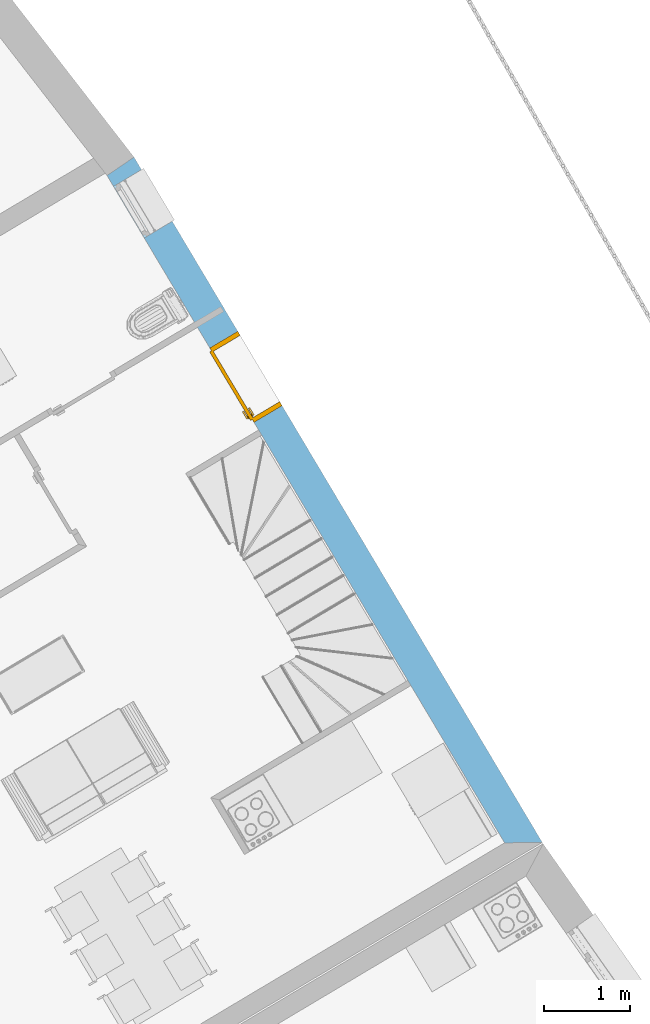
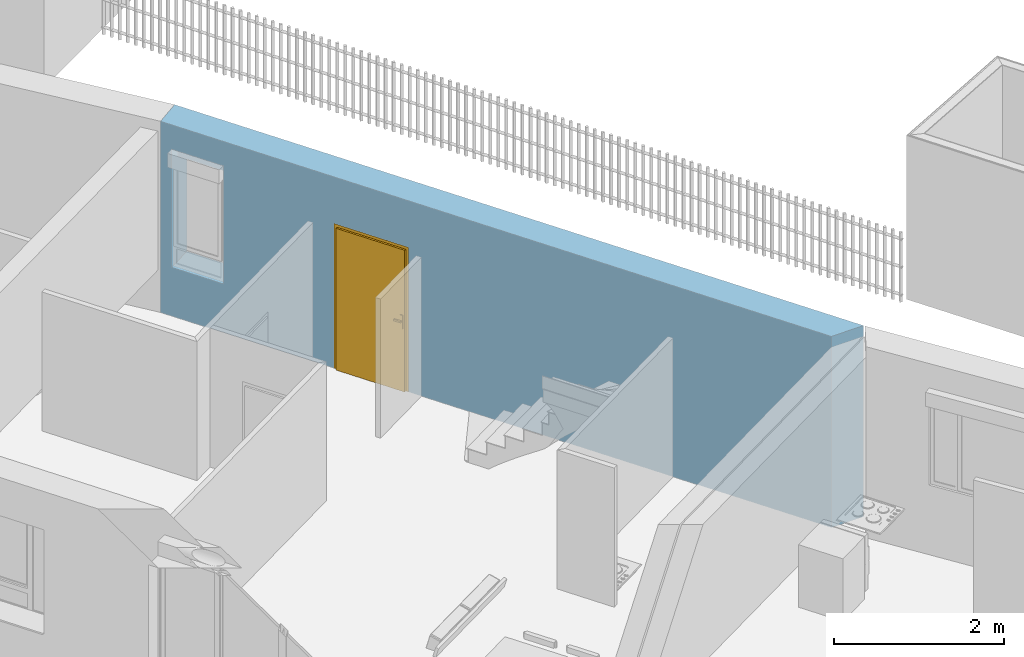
# One storey, part 48 of 195: 1 door, 2 openings, plus 1 element that does not belong to this part.
"""IFC2X3 building model written with IfcOpenShell, lengths in metres."""

from ifc_helpers import new_model, entity, si_unit, converted_unit, derived_unit, money_unit, direction, frame, origin_with_axes, origin_2d_with_axis, place, context, subcontext, project, spatial, polyline, rectangle, outline, extrude, faceted_brep, source, transform, mapped, material, layer, layer_set, layer_usage, type_object, element, fill, save


model = new_model("IFC2X3")

# Units and contexts
model_context = context("Model", 3, precision=1e-05, world=origin_with_axes(), true_north=direction((0.0, 1.0)))
body_context = subcontext(model_context, "Body", "Model", "MODEL_VIEW")
ifc_project = project(units=[si_unit("LENGTHUNIT", "METRE"), si_unit("AREAUNIT", "SQUARE_METRE"), si_unit("VOLUMEUNIT", "CUBIC_METRE"), converted_unit("PLANEANGLEUNIT", "DEGREE", entity("IfcPlaneAngleMeasure", 0.0174532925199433), si_unit("PLANEANGLEUNIT", "RADIAN"), dimensions=[0, 0, 0, 0, 0, 0, 0]), money_unit("CHF"), converted_unit("TIMEUNIT", "Year", entity("IfcTimeMeasure", 31557600.0), si_unit("TIMEUNIT", "SECOND"), dimensions=[0, 0, 1, 0, 0, 0, 0]), si_unit("MASSUNIT", "GRAM", prefix="KILO"), si_unit("THERMODYNAMICTEMPERATUREUNIT", "DEGREE_CELSIUS"), si_unit("LUMINOUSINTENSITYUNIT", "LUMEN"), si_unit("ENERGYUNIT", "JOULE", prefix="MEGA"), derived_unit("THERMALCONDUCTANCEUNIT", [(si_unit("POWERUNIT", "WATT"), 1), (si_unit("LENGTHUNIT", "METRE"), -1), (si_unit("THERMODYNAMICTEMPERATUREUNIT", "KELVIN"), -1)]), derived_unit("SPECIFICHEATCAPACITYUNIT", [(si_unit("ENERGYUNIT", "JOULE"), 1), (si_unit("MASSUNIT", "GRAM", prefix="KILO"), -1), (si_unit("THERMODYNAMICTEMPERATUREUNIT", "KELVIN"), -1)]), derived_unit("MASSDENSITYUNIT", [(si_unit("MASSUNIT", "GRAM", prefix="KILO"), 1), (si_unit("VOLUMEUNIT", "CUBIC_METRE"), -1)])], contexts=[model_context])

# Site, building, storey
site_placement = place(None, origin_with_axes())
site = spatial("IfcSite", under=ifc_project, at=site_placement, Name="Site", CompositionType="ELEMENT")
building_placement = place(site_placement, origin_with_axes())
building = spatial("IfcBuilding", under=site, at=building_placement, Name="Bâtiment", CompositionType="ELEMENT")
storey_placement = place(building_placement, origin_with_axes())
storey = spatial("IfcBuildingStorey", under=building, at=storey_placement, Name="rdc", CompositionType="ELEMENT", Elevation=0.0)

# Wall, openings, door
ifc_material_1 = material(Name="Parpaing 312445824")
ifc_layer_1 = layer(ifc_material_1, 0.22, ventilated="UNKNOWN")
ifc_material_2 = material(Name="Isolant styromousse 301821074")
ifc_layer_2 = layer(ifc_material_2, 0.16, ventilated="UNKNOWN")
ifc_layer_set = layer_set([ifc_layer_1, ifc_layer_2], Name="isol int 22+16 0836643197")
ifc_layer_usage = layer_usage(ifc_layer_set, "AXIS2", "POSITIVE", 0.0)
wall_type = type_object("IfcWallType", Name="isol int 22+16 0836643197 380", PredefinedType="NOTDEFINED")
wall_placement = place(storey_placement, frame((9549.820148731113, -1051.269473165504, 57.7), z_axis=(0.0, 0.0, 1.0), x_axis=(-0.5118298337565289, 0.8590868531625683, 0.0)))
wall = element("IfcWallStandardCase", 1, at=wall_placement, inside=storey, type_object=wall_type, material=ifc_layer_usage, Name="Mur-112", context=body_context, shape_type="SweptSolid", body=[
    extrude(outline(polyline([(0.0, 0.0), (9.30089494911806, 0.0), (9.277642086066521, 0.3799999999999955), (0.2200000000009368, 0.3799999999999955), (0.0, 0.0)])), origin_with_axes(), (0.0, 0.0, 1.0), 2.75),
])
opening_1_placement = place(wall_placement, frame((8.780433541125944, 0.0, 0.7000000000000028), z_axis=(0.0, 0.0, 1.0), x_axis=(1.0, 0.0, 0.0)))
element("IfcOpeningElement", 2, at=opening_1_placement, cuts=wall, Name="Fen-050", context=body_context, shape_type="Brep", body=[
    faceted_brep([(0.3500000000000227, 0.2200000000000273, 1.5), (-0.3500000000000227, 0.2200000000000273, 1.5), (-0.3499999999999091, -4.090661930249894, 1.5), (0.3500000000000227, -4.090661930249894, 1.5), (0.3500000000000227, 0.2200000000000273, 1.700000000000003), (-0.3500000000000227, 0.2200000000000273, 1.700000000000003), (-0.3500000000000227, 0.2999999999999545, 1.5), (-0.3500000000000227, 0.2999999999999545, 0.0), (-0.3499999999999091, -4.090661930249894, 0.0), (0.3500000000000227, -4.090661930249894, 0.0), (0.3500000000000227, 0.3000000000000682, 1.5), (0.3500000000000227, 0.3000000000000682, 0.0), (0.3500000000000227, 0.4800000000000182, 1.5), (0.3500000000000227, 0.4800000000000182, 1.700000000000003), (-0.3500000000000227, 0.4799999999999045, 1.700000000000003), (-0.3500000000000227, 0.4799999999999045, 1.5), (-0.3499999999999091, 4.470661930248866, 1.5), (-0.3499999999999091, 4.470661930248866, 0.0), (0.3500000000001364, 4.47066193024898, 0.0), (0.3500000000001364, 4.47066193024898, 1.5)], [[[0, 1, 2, 3]], [[1, 0, 4, 5]], [[1, 6, 7, 8, 2]], [[2, 8, 9, 3]], [[10, 0, 3, 9, 11]], [[0, 10, 12, 13, 4]], [[4, 13, 14, 5]], [[6, 1, 5, 14, 15]], [[6, 15, 16, 17, 7]], [[7, 11, 9, 8]], [[12, 10, 11, 18, 19]], [[12, 15, 14, 13]], [[15, 12, 19, 16]], [[19, 18, 17, 16]], [[11, 7, 17, 18]]]),
])
opening_2_placement = place(wall_placement, frame((6.432047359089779, 0.0, 0.0), z_axis=(0.0, 0.0, 1.0), x_axis=(1.0, 0.0, 0.0)))
opening_2 = element("IfcOpeningElement", 3, at=opening_2_placement, cuts=wall, Name="Por-300", context=body_context, shape_type="SweptSolid", body=[
    extrude(rectangle(XDim=1.01000001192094, YDim=2.079999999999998, at=origin_2d_with_axis()), frame((5.960373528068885e-09, -0.3799999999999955, 1.039999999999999), z_axis=(0.0, 1.0, 0.0), x_axis=(1.0, 0.0, 0.0)), (0.0, 0.0, 1.0), 0.76),
])
door_style = type_object("IfcDoorStyle", Name="Porte_1v", ConstructionType="NOTDEFINED", OperationType="NOTDEFINED", ParameterTakesPrecedence=False, Sizeable=False)
shared_shape = source(origin_with_axes(), body_context, "Body", "Brep", [
    faceted_brep([(0.5049999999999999, 0.0, 0.0), (0.465, 0.0, 0.0), (0.4649999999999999, 0.0, 2.04), (-0.4649999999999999, 0.0, 2.04), (-0.465, 0.0, 0.0), (-0.5049999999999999, 0.0, 0.0), (-0.5049999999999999, 0.0, 2.08), (0.5049999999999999, 0.0, 2.08), (0.5049999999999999, -0.38, 0.0), (0.45, -0.3799999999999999, 0.0), (0.45, -0.01500000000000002, 0.0), (0.465, -0.01500000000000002, 0.0), (0.4649999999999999, -0.01500000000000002, 2.04), (-0.4649999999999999, -0.01499999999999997, 2.04), (-0.465, -0.01499999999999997, 0.0), (-0.45, -0.01499999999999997, 0.0), (-0.45, -0.3799999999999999, 0.0), (-0.5049999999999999, -0.3799999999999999, 0.0), (-0.5049999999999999, -0.3799999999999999, 2.08), (0.5049999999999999, -0.38, 2.08), (-0.45, -0.3799999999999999, 2.025), (0.45, -0.3799999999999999, 2.025), (0.45, -0.01500000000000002, 2.025), (-0.45, -0.01499999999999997, 2.025)], [[[0, 1, 2, 3, 4, 5, 6, 7]], [[0, 8, 9, 10, 11, 1]], [[1, 11, 12, 2]], [[2, 12, 13, 3]], [[3, 13, 14, 4]], [[5, 4, 14, 15, 16, 17]], [[18, 6, 5, 17]], [[19, 7, 6, 18]], [[8, 0, 7, 19]], [[9, 8, 19, 18, 17, 16, 20, 21]], [[10, 9, 21, 22]], [[11, 10, 22, 23, 15, 14, 13, 12]], [[23, 20, 16, 15]], [[22, 21, 20, 23]]]),
    faceted_brep([(-0.4, -0.01499999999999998, 0.9), (-0.4399999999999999, -0.01499999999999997, 0.9), (-0.4399999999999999, -0.01499999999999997, 1.1), (-0.4, -0.01499999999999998, 1.1), (-0.4, -0.02499999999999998, 0.9), (-0.4399999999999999, -0.02499999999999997, 0.9), (-0.4399999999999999, -0.02499999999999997, 1.1), (-0.4, -0.02499999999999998, 1.1)], [[[0, 1, 2, 3]], [[1, 0, 4, 5]], [[2, 1, 5, 6]], [[3, 2, 6, 7]], [[0, 3, 7, 4]], [[5, 4, 7, 6]]]),
    faceted_brep([(-0.3299999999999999, -0.02499999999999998, 1.0), (-0.4299999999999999, -0.02499999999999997, 1.0), (-0.4299999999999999, -0.02499999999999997, 1.02), (-0.3299999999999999, -0.02499999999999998, 1.02), (-0.3299999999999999, -0.04499999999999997, 1.0), (-0.4299999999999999, -0.04499999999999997, 1.0), (-0.4299999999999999, -0.04499999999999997, 1.02), (-0.3299999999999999, -0.04499999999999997, 1.02)], [[[0, 1, 2, 3]], [[1, 0, 4, 5]], [[2, 1, 5, 6]], [[3, 2, 6, 7]], [[0, 3, 7, 4]], [[5, 4, 7, 6]]]),
    faceted_brep([(-0.4, 0.03500000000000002, 0.9), (-0.4399999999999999, 0.03500000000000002, 0.9), (-0.4399999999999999, 0.03500000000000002, 1.1), (-0.4, 0.03500000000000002, 1.1), (-0.4, 0.02500000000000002, 0.9), (-0.4399999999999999, 0.02500000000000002, 0.9), (-0.4399999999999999, 0.02500000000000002, 1.1), (-0.4, 0.02500000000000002, 1.1)], [[[0, 1, 2, 3]], [[1, 0, 4, 5]], [[2, 1, 5, 6]], [[3, 2, 6, 7]], [[0, 3, 7, 4]], [[5, 4, 7, 6]]]),
    faceted_brep([(-0.3299999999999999, 0.05500000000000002, 1.0), (-0.4299999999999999, 0.05500000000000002, 1.0), (-0.4299999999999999, 0.05500000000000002, 1.02), (-0.3299999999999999, 0.05500000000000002, 1.02), (-0.3299999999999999, 0.03500000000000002, 1.0), (-0.4299999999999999, 0.03500000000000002, 1.0), (-0.4299999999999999, 0.03500000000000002, 1.02), (-0.3299999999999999, 0.03500000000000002, 1.02)], [[[0, 1, 2, 3]], [[1, 0, 4, 5]], [[2, 1, 5, 6]], [[3, 2, 6, 7]], [[0, 3, 7, 4]], [[5, 4, 7, 6]]]),
    faceted_brep([(-0.465, 0.02500000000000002, 0.0), (0.465, 0.02499999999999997, 0.0), (0.465, -0.01500000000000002, 0.0), (-0.465, -0.01499999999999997, 0.0), (-0.465, 0.02500000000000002, 2.04), (0.465, 0.02499999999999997, 2.04), (0.465, -0.01500000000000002, 2.04), (-0.465, -0.01499999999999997, 2.04)], [[[0, 1, 2, 3]], [[0, 4, 5, 1]], [[1, 5, 6, 2]], [[3, 2, 6, 7]], [[4, 0, 3, 7]], [[5, 4, 7, 6]]]),
])
door_placement = place(opening_2_placement, frame((-0.4649999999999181, 0.0, 0.0), z_axis=(0.0, 0.0, 1.0), x_axis=(1.0, 0.0, 0.0)))
door = element("IfcDoor", 4, at=door_placement, inside=storey, type_object=door_style, Name="Por-300", OverallHeight=2.04, OverallWidth=0.93, context=body_context, shape_type="MappedRepresentation", body=[
    mapped(shared_shape, transform((0.4650000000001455, 0.3799999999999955, 0.0))),
])
fill(opening_2, door)

save(model, "model.ifc")
